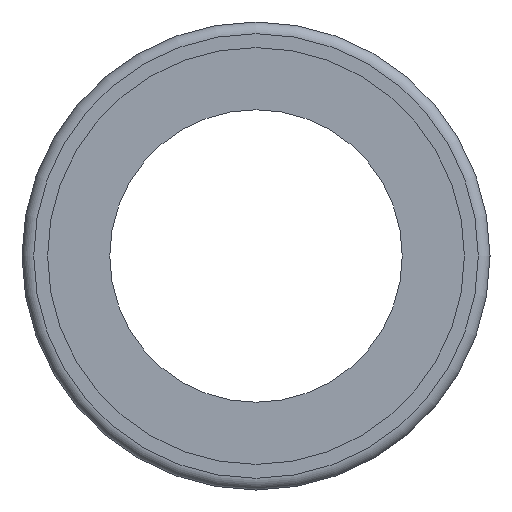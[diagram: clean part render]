
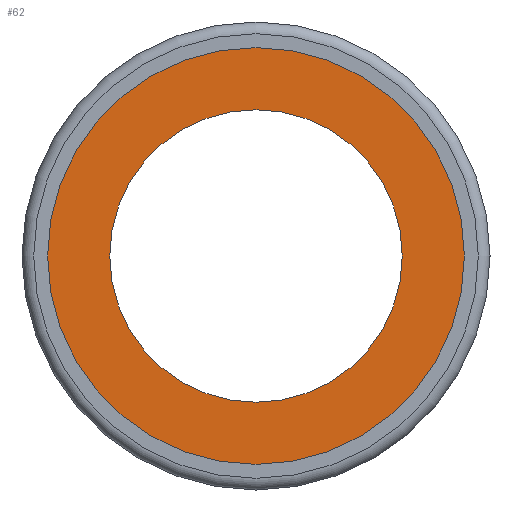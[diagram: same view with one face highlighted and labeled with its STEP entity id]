
A CAD part, left-side view. The second image highlights one B-rep face of the part: STEP entity #62.
In plain terms, the highlighted planar face has unit normal (-1, 0, 0).
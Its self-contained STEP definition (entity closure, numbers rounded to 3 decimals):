
#62 = ADVANCED_FACE( '', ( #135, #136 ), #137, .T. );
#135 = FACE_BOUND( '', #214, .T. );
#136 = FACE_OUTER_BOUND( '', #215, .T. );
#137 = PLANE( '', #216 );
#214 = EDGE_LOOP( '', ( #307 ) );
#215 = EDGE_LOOP( '', ( #308 ) );
#216 = AXIS2_PLACEMENT_3D( '', #309, #310, #311 );
#307 = ORIENTED_EDGE( '', *, *, #359, .F. );
#308 = ORIENTED_EDGE( '', *, *, #364, .T. );
#309 = CARTESIAN_POINT( '', ( 4., 12.125, 0. ) );
#310 = DIRECTION( '', ( -1., 0., 0. ) );
#311 = DIRECTION( '', ( 0., 1., 0. ) );
#359 = EDGE_CURVE( '', #398, #398, #399, .T. );
#364 = EDGE_CURVE( '', #406, #406, #407, .T. );
#398 = VERTEX_POINT( '', #452 );
#399 = CIRCLE( '', #453, 10. );
#406 = VERTEX_POINT( '', #460 );
#407 = CIRCLE( '', #461, 14.25 );
#452 = CARTESIAN_POINT( '', ( 4., 0., 10. ) );
#453 = AXIS2_PLACEMENT_3D( '', #507, #508, #509 );
#460 = CARTESIAN_POINT( '', ( 4., 0., 14.25 ) );
#461 = AXIS2_PLACEMENT_3D( '', #516, #517, #518 );
#507 = CARTESIAN_POINT( '', ( 4., 0., 0. ) );
#508 = DIRECTION( '', ( -1., 0., 0. ) );
#509 = DIRECTION( '', ( 0., 0., 1. ) );
#516 = CARTESIAN_POINT( '', ( 4., 0., 0. ) );
#517 = DIRECTION( '', ( -1., 0., 0. ) );
#518 = DIRECTION( '', ( 0., 0., 1. ) );
